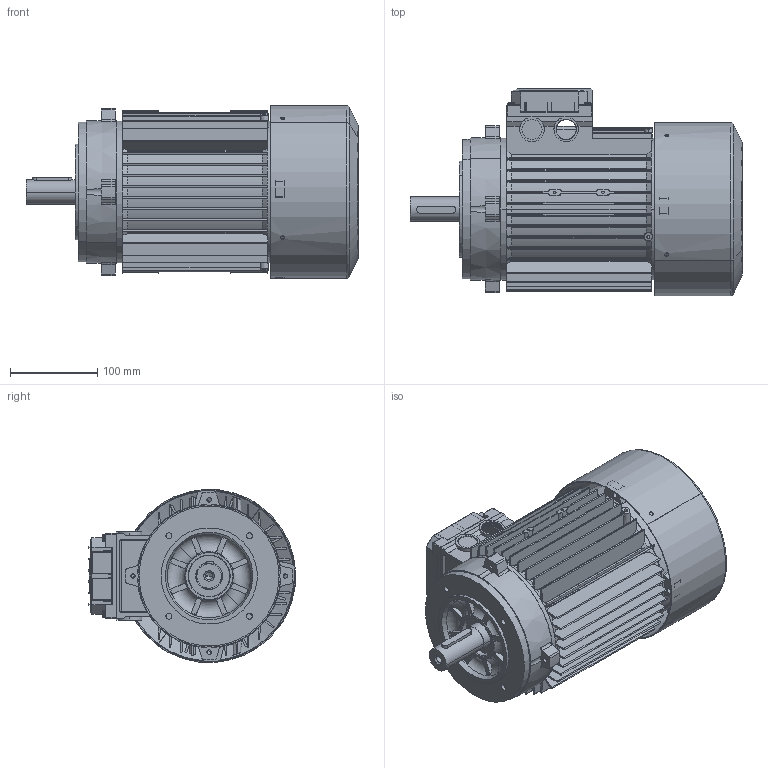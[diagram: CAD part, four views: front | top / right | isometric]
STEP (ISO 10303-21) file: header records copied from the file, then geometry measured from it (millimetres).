
FILE_DESCRIPTION (( 'STEP AP214' ), '1' );
FILE_NAME ('SM 100 B14.STEP', '2017-09-28T13:08:04', ( '' ), ( '' ), 'SwSTEP 2.0', 'SolidWorks 2017', '' );
FILE_SCHEMA (( 'AUTOMOTIVE_DESIGN' ));
Length unit declared in the file: millimetre
Products named in the file (11): Scudo a Flangia B14 BA 100 - DEAC0194; Carcassa 100 B5; SM 100 B14; Coperchio per Scatola Singola 90 - 100 - 112 con viti; Vite per coperchio morsettiera; Coperchio per Scatola Singola 90 - 100 - 112; Cuffia SM 100; Ventola BM 100-112; Chiavetta 100-112; Albero SM 100; Scudo Lato Comando B3 BA-BM 100 - DEAD0094
Assembly tree (13 placements, depth 3):
  SM 100 B14
    Carcassa 100 B5
    Scudo a Flangia B14 BA 100 - DEAC0194
    Scudo Lato Comando B3 BA-BM 100 - DEAD0094
    Albero SM 100
    Chiavetta 100-112
    Ventola BM 100-112
    Cuffia SM 100
    Coperchio per Scatola Singola 90 - 100 - 112 con viti
      Coperchio per Scatola Singola 90 - 100 - 112
      Vite per coperchio morsettiera  x4
Bounding box: 379.5 x 236.84 x 197.69 mm (x, y, z)
Volume: 1625465.6 mm3; surface area: 902151.2 mm2
Topology: 12 solids, 12 shells, 3246 faces, 9012 edges, 5820 vertices
Faces by surface type: plane 1278, cylinder 1193, torus 342, cone 249, bspline 184
Entity records: 114276 total; most frequent: CARTESIAN_POINT 35529, ORIENTED_EDGE 17172, DIRECTION 15721, EDGE_CURVE 8586, AXIS2_PLACEMENT_3D 5816, VERTEX_POINT 5586, VECTOR 4089, LINE 4089
